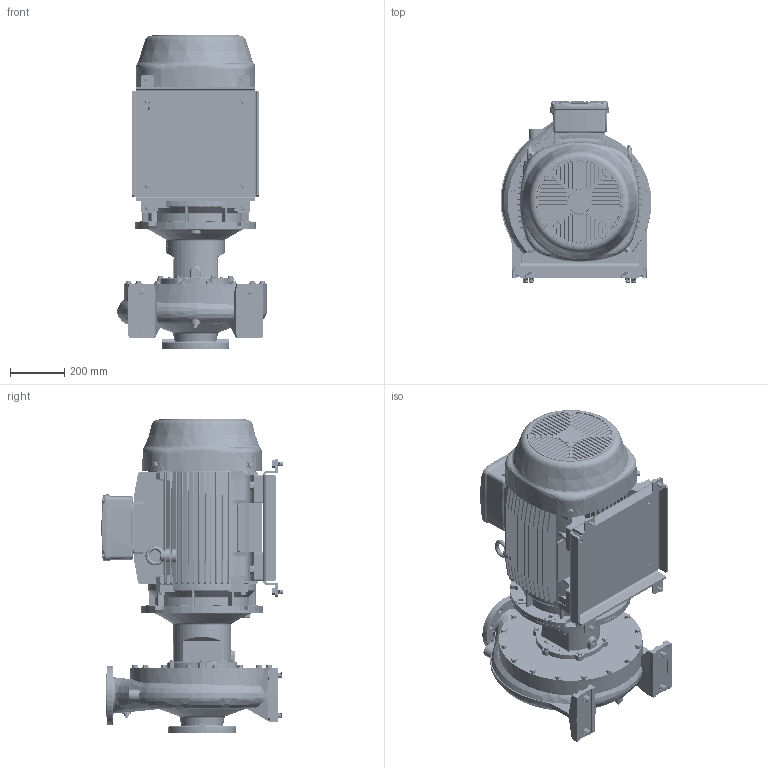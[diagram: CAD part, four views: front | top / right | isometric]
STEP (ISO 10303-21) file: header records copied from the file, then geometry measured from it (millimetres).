
FILE_DESCRIPTION (( 'STEP AP214' ), '1' );
FILE_NAME ('GSD4 100-400_37 & 45_(225SM)_W21.STEP', '2026-07-01T05:19:15', ( '' ), ( '' ), 'SwSTEP 2.0', 'SolidWorks 2024', '' );
FILE_SCHEMA (( 'AUTOMOTIVE_DESIGN' ));
Length unit declared in the file: millimetre
Products named in the file (9): Parametric Flat Washer_M16; Parametric bolt_SFT-A351B; CGS11-5282; Parametric Flat Washer_M20; 100-400-225S_M_ﾃﾞﾌｫﾙﾄ; Parametric bolt_SFT-A403B; Parametric bolt_SFT-A359B; GSD4 100-400_37 & 45_(225SM)_W21; 225S_M4P IE3_W21T_B35
Assembly tree (27 placements, depth 2):
  GSD4 100-400_37 & 45_(225SM)_W21
    100-400-225S_M_ﾃﾞﾌｫﾙﾄ
    225S_M4P IE3_W21T_B35
    CGS11-5282
    Parametric bolt_SFT-A351B  x4
    Parametric Flat Washer_M16  x8
    Parametric bolt_SFT-A359B  x4
    Parametric bolt_SFT-A403B  x4
    Parametric Flat Washer_M20  x4
Bounding box: 559 x 671 x 1164.5 mm (x, y, z)
Volume: 150449653 mm3; surface area: 5258183.8 mm2
Topology: 36 solids, 41 shells, 4381 faces, 11485 edges, 7325 vertices
Faces by surface type: plane 1824, cylinder 1469, cone 530, bspline 289, torus 251, sphere 18
Entity records: 165687 total; most frequent: CARTESIAN_POINT 75912, ORIENTED_EDGE 19648, DIRECTION 17770, EDGE_CURVE 9824, AXIS2_PLACEMENT_3D 6457, VERTEX_POINT 6254, LINE 4856, VECTOR 4856
